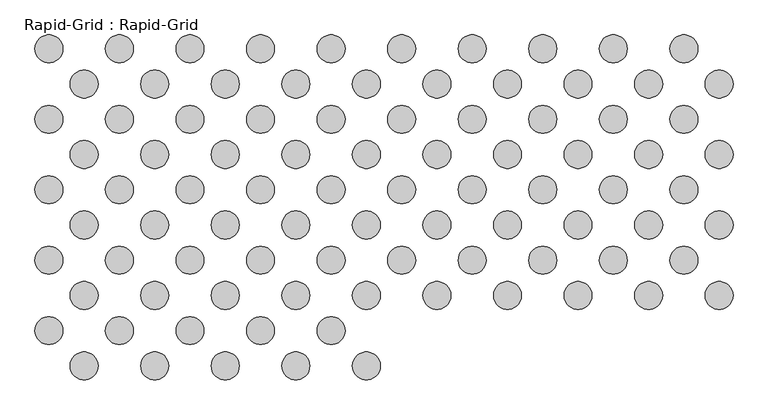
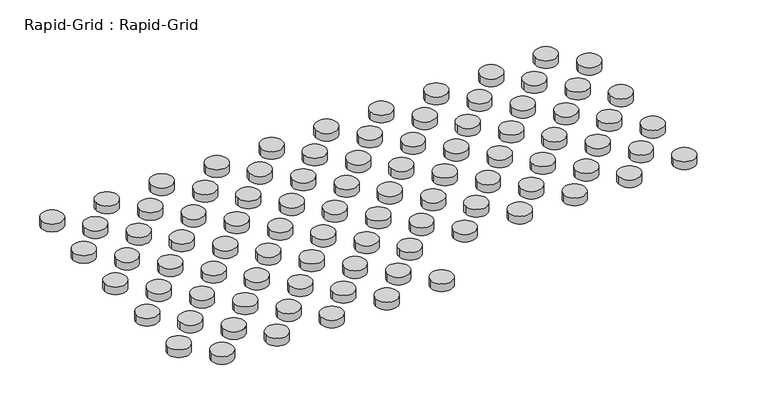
"""IFC4 building model written with IfcOpenShell, lengths in millimetres: proxy geometry, Rapid-Grid : Rapid-Grid."""

from ifc_helpers import new_model, si_unit, point, frame_2d, origin, origin_with_axes, place, context, project, spatial, circle_curve, trimmed, segment, composite_curve, outline, extrude, source, transform, mapped, element, save


def rapid_grid_rapid_grid_16447b40(model_context):
    return source(origin(), model_context, "Body", "SweptSolid", [
        extrude(outline(composite_curve([segment(trimmed(circle_curve(frame_2d((723.9, -1943.1)), 30.1625), [point((693.7375, -1943.1))], [point((754.0625, -1943.1))], False, "CARTESIAN"), True, "CONTINUOUS"), segment(trimmed(circle_curve(frame_2d((723.9, -1943.1)), 30.1625), [point((754.0625, -1943.1))], [point((693.7375, -1943.1))], False, "CARTESIAN"), True, "CONTINUOUS")], self_intersect=False)), origin_with_axes(), (0.0, 0.0, 1.0), 22.225),
        extrude(outline(composite_curve([segment(trimmed(circle_curve(frame_2d((647.7, -1866.9)), 30.1625), [point((617.5375, -1866.9))], [point((677.8625, -1866.9))], False, "CARTESIAN"), True, "CONTINUOUS"), segment(trimmed(circle_curve(frame_2d((647.7, -1866.9)), 30.1625), [point((677.8625, -1866.9))], [point((617.5375, -1866.9))], False, "CARTESIAN"), True, "CONTINUOUS")], self_intersect=False)), origin_with_axes(), (0.0, 0.0, 1.0), 22.225),
        extrude(outline(composite_curve([segment(trimmed(circle_curve(frame_2d((571.5, -1943.1)), 30.1625), [point((541.3375, -1943.1))], [point((601.6625, -1943.1))], False, "CARTESIAN"), True, "CONTINUOUS"), segment(trimmed(circle_curve(frame_2d((571.5, -1943.1)), 30.1625), [point((601.6625, -1943.1))], [point((541.3375, -1943.1))], False, "CARTESIAN"), True, "CONTINUOUS")], self_intersect=False)), origin_with_axes(), (0.0, 0.0, 1.0), 22.225),
        extrude(outline(composite_curve([segment(trimmed(circle_curve(frame_2d((495.3, -1866.9)), 30.1625), [point((465.1375, -1866.9))], [point((525.4625, -1866.9))], False, "CARTESIAN"), True, "CONTINUOUS"), segment(trimmed(circle_curve(frame_2d((495.3, -1866.9)), 30.1625), [point((525.4625, -1866.9))], [point((465.1375, -1866.9))], False, "CARTESIAN"), True, "CONTINUOUS")], self_intersect=False)), origin_with_axes(), (0.0, 0.0, 1.0), 22.225),
        extrude(outline(composite_curve([segment(trimmed(circle_curve(frame_2d((419.1, -1943.1)), 30.1625), [point((388.9375, -1943.1))], [point((449.2625, -1943.1))], False, "CARTESIAN"), True, "CONTINUOUS"), segment(trimmed(circle_curve(frame_2d((419.1, -1943.1)), 30.1625), [point((449.2625, -1943.1))], [point((388.9375, -1943.1))], False, "CARTESIAN"), True, "CONTINUOUS")], self_intersect=False)), origin_with_axes(), (0.0, 0.0, 1.0), 22.225),
        extrude(outline(composite_curve([segment(trimmed(circle_curve(frame_2d((342.9, -1866.9)), 30.1625), [point((312.7375, -1866.9))], [point((373.0625, -1866.9))], False, "CARTESIAN"), True, "CONTINUOUS"), segment(trimmed(circle_curve(frame_2d((342.9, -1866.9)), 30.1625), [point((373.0625, -1866.9))], [point((312.7375, -1866.9))], False, "CARTESIAN"), True, "CONTINUOUS")], self_intersect=False)), origin_with_axes(), (0.0, 0.0, 1.0), 22.225),
        extrude(outline(composite_curve([segment(trimmed(circle_curve(frame_2d((266.7, -1943.1)), 30.1625), [point((236.5375, -1943.1))], [point((296.8625, -1943.1))], False, "CARTESIAN"), True, "CONTINUOUS"), segment(trimmed(circle_curve(frame_2d((266.7, -1943.1)), 30.1625), [point((296.8625, -1943.1))], [point((236.5375, -1943.1))], False, "CARTESIAN"), True, "CONTINUOUS")], self_intersect=False)), origin_with_axes(), (0.0, 0.0, 1.0), 22.225),
        extrude(outline(composite_curve([segment(trimmed(circle_curve(frame_2d((190.5, -1866.9)), 30.1625), [point((160.3375, -1866.9))], [point((220.6625, -1866.9))], False, "CARTESIAN"), True, "CONTINUOUS"), segment(trimmed(circle_curve(frame_2d((190.5, -1866.9)), 30.1625), [point((220.6625, -1866.9))], [point((160.3375, -1866.9))], False, "CARTESIAN"), True, "CONTINUOUS")], self_intersect=False)), origin_with_axes(), (0.0, 0.0, 1.0), 22.225),
        extrude(outline(composite_curve([segment(trimmed(circle_curve(frame_2d((114.3, -1943.1)), 30.1625), [point((84.1375, -1943.1))], [point((144.4625, -1943.1))], False, "CARTESIAN"), True, "CONTINUOUS"), segment(trimmed(circle_curve(frame_2d((114.3, -1943.1)), 30.1625), [point((144.4625, -1943.1))], [point((84.1375, -1943.1))], False, "CARTESIAN"), True, "CONTINUOUS")], self_intersect=False)), origin_with_axes(), (0.0, 0.0, 1.0), 22.225),
        extrude(outline(composite_curve([segment(trimmed(circle_curve(frame_2d((38.1, -1866.9)), 30.1625), [point((7.9375, -1866.9))], [point((68.2625, -1866.9))], False, "CARTESIAN"), True, "CONTINUOUS"), segment(trimmed(circle_curve(frame_2d((38.1, -1866.9)), 30.1625), [point((68.2625, -1866.9))], [point((7.9375, -1866.9))], False, "CARTESIAN"), True, "CONTINUOUS")], self_intersect=False)), origin_with_axes(), (0.0, 0.0, 1.0), 22.225),
        extrude(outline(composite_curve([segment(trimmed(circle_curve(frame_2d((1485.9, -1790.7)), 30.1625), [point((1455.7375, -1790.7))], [point((1516.0625, -1790.7))], False, "CARTESIAN"), True, "CONTINUOUS"), segment(trimmed(circle_curve(frame_2d((1485.9, -1790.7)), 30.1625), [point((1516.0625, -1790.7))], [point((1455.7375, -1790.7))], False, "CARTESIAN"), True, "CONTINUOUS")], self_intersect=False)), origin_with_axes(), (0.0, 0.0, 1.0), 22.225),
        extrude(outline(composite_curve([segment(trimmed(circle_curve(frame_2d((1409.7, -1714.5)), 30.1625), [point((1379.5375, -1714.5))], [point((1439.8625, -1714.5))], False, "CARTESIAN"), True, "CONTINUOUS"), segment(trimmed(circle_curve(frame_2d((1409.7, -1714.5)), 30.1625), [point((1439.8625, -1714.5))], [point((1379.5375, -1714.5))], False, "CARTESIAN"), True, "CONTINUOUS")], self_intersect=False)), origin_with_axes(), (0.0, 0.0, 1.0), 22.225),
        extrude(outline(composite_curve([segment(trimmed(circle_curve(frame_2d((1333.5, -1790.7)), 30.1625), [point((1303.3375, -1790.7))], [point((1363.6625, -1790.7))], False, "CARTESIAN"), True, "CONTINUOUS"), segment(trimmed(circle_curve(frame_2d((1333.5, -1790.7)), 30.1625), [point((1363.6625, -1790.7))], [point((1303.3375, -1790.7))], False, "CARTESIAN"), True, "CONTINUOUS")], self_intersect=False)), origin_with_axes(), (0.0, 0.0, 1.0), 22.225),
        extrude(outline(composite_curve([segment(trimmed(circle_curve(frame_2d((1257.3, -1714.5)), 30.1625), [point((1227.1375, -1714.5))], [point((1287.4625, -1714.5))], False, "CARTESIAN"), True, "CONTINUOUS"), segment(trimmed(circle_curve(frame_2d((1257.3, -1714.5)), 30.1625), [point((1287.4625, -1714.5))], [point((1227.1375, -1714.5))], False, "CARTESIAN"), True, "CONTINUOUS")], self_intersect=False)), origin_with_axes(), (0.0, 0.0, 1.0), 22.225),
        extrude(outline(composite_curve([segment(trimmed(circle_curve(frame_2d((1181.1, -1790.7)), 30.1625), [point((1150.9375, -1790.7))], [point((1211.2625, -1790.7))], False, "CARTESIAN"), True, "CONTINUOUS"), segment(trimmed(circle_curve(frame_2d((1181.1, -1790.7)), 30.1625), [point((1211.2625, -1790.7))], [point((1150.9375, -1790.7))], False, "CARTESIAN"), True, "CONTINUOUS")], self_intersect=False)), origin_with_axes(), (0.0, 0.0, 1.0), 22.225),
        extrude(outline(composite_curve([segment(trimmed(circle_curve(frame_2d((1104.9, -1714.5)), 30.1625), [point((1074.7375, -1714.5))], [point((1135.0625, -1714.5))], False, "CARTESIAN"), True, "CONTINUOUS"), segment(trimmed(circle_curve(frame_2d((1104.9, -1714.5)), 30.1625), [point((1135.0625, -1714.5))], [point((1074.7375, -1714.5))], False, "CARTESIAN"), True, "CONTINUOUS")], self_intersect=False)), origin_with_axes(), (0.0, 0.0, 1.0), 22.225),
        extrude(outline(composite_curve([segment(trimmed(circle_curve(frame_2d((1028.7, -1790.7)), 30.1625), [point((998.5375, -1790.7))], [point((1058.8625, -1790.7))], False, "CARTESIAN"), True, "CONTINUOUS"), segment(trimmed(circle_curve(frame_2d((1028.7, -1790.7)), 30.1625), [point((1058.8625, -1790.7))], [point((998.5375, -1790.7))], False, "CARTESIAN"), True, "CONTINUOUS")], self_intersect=False)), origin_with_axes(), (0.0, 0.0, 1.0), 22.225),
        extrude(outline(composite_curve([segment(trimmed(circle_curve(frame_2d((952.5, -1714.5)), 30.1625), [point((922.3375, -1714.5))], [point((982.6625, -1714.5))], False, "CARTESIAN"), True, "CONTINUOUS"), segment(trimmed(circle_curve(frame_2d((952.5, -1714.5)), 30.1625), [point((982.6625, -1714.5))], [point((922.3375, -1714.5))], False, "CARTESIAN"), True, "CONTINUOUS")], self_intersect=False)), origin_with_axes(), (0.0, 0.0, 1.0), 22.225),
        extrude(outline(composite_curve([segment(trimmed(circle_curve(frame_2d((876.3, -1790.7)), 30.1625), [point((846.1375, -1790.7))], [point((906.4625, -1790.7))], False, "CARTESIAN"), True, "CONTINUOUS"), segment(trimmed(circle_curve(frame_2d((876.3, -1790.7)), 30.1625), [point((906.4625, -1790.7))], [point((846.1375, -1790.7))], False, "CARTESIAN"), True, "CONTINUOUS")], self_intersect=False)), origin_with_axes(), (0.0, 0.0, 1.0), 22.225),
        extrude(outline(composite_curve([segment(trimmed(circle_curve(frame_2d((800.1, -1714.5)), 30.1625), [point((769.9375, -1714.5))], [point((830.2625, -1714.5))], False, "CARTESIAN"), True, "CONTINUOUS"), segment(trimmed(circle_curve(frame_2d((800.1, -1714.5)), 30.1625), [point((830.2625, -1714.5))], [point((769.9375, -1714.5))], False, "CARTESIAN"), True, "CONTINUOUS")], self_intersect=False)), origin_with_axes(), (0.0, 0.0, 1.0), 22.225),
        extrude(outline(composite_curve([segment(trimmed(circle_curve(frame_2d((723.9, -1790.7)), 30.1625), [point((693.7375, -1790.7))], [point((754.0625, -1790.7))], False, "CARTESIAN"), True, "CONTINUOUS"), segment(trimmed(circle_curve(frame_2d((723.9, -1790.7)), 30.1625), [point((754.0625, -1790.7))], [point((693.7375, -1790.7))], False, "CARTESIAN"), True, "CONTINUOUS")], self_intersect=False)), origin_with_axes(), (0.0, 0.0, 1.0), 22.225),
        extrude(outline(composite_curve([segment(trimmed(circle_curve(frame_2d((647.7, -1714.5)), 30.1625), [point((617.5375, -1714.5))], [point((677.8625, -1714.5))], False, "CARTESIAN"), True, "CONTINUOUS"), segment(trimmed(circle_curve(frame_2d((647.7, -1714.5)), 30.1625), [point((677.8625, -1714.5))], [point((617.5375, -1714.5))], False, "CARTESIAN"), True, "CONTINUOUS")], self_intersect=False)), origin_with_axes(), (0.0, 0.0, 1.0), 22.225),
        extrude(outline(composite_curve([segment(trimmed(circle_curve(frame_2d((571.5, -1790.7)), 30.1625), [point((541.3375, -1790.7))], [point((601.6625, -1790.7))], False, "CARTESIAN"), True, "CONTINUOUS"), segment(trimmed(circle_curve(frame_2d((571.5, -1790.7)), 30.1625), [point((601.6625, -1790.7))], [point((541.3375, -1790.7))], False, "CARTESIAN"), True, "CONTINUOUS")], self_intersect=False)), origin_with_axes(), (0.0, 0.0, 1.0), 22.225),
        extrude(outline(composite_curve([segment(trimmed(circle_curve(frame_2d((495.3, -1714.5)), 30.1625), [point((465.1375, -1714.5))], [point((525.4625, -1714.5))], False, "CARTESIAN"), True, "CONTINUOUS"), segment(trimmed(circle_curve(frame_2d((495.3, -1714.5)), 30.1625), [point((525.4625, -1714.5))], [point((465.1375, -1714.5))], False, "CARTESIAN"), True, "CONTINUOUS")], self_intersect=False)), origin_with_axes(), (0.0, 0.0, 1.0), 22.225),
        extrude(outline(composite_curve([segment(trimmed(circle_curve(frame_2d((419.1, -1790.7)), 30.1625), [point((388.9375, -1790.7))], [point((449.2625, -1790.7))], False, "CARTESIAN"), True, "CONTINUOUS"), segment(trimmed(circle_curve(frame_2d((419.1, -1790.7)), 30.1625), [point((449.2625, -1790.7))], [point((388.9375, -1790.7))], False, "CARTESIAN"), True, "CONTINUOUS")], self_intersect=False)), origin_with_axes(), (0.0, 0.0, 1.0), 22.225),
        extrude(outline(composite_curve([segment(trimmed(circle_curve(frame_2d((342.9, -1714.5)), 30.1625), [point((312.7375, -1714.5))], [point((373.0625, -1714.5))], False, "CARTESIAN"), True, "CONTINUOUS"), segment(trimmed(circle_curve(frame_2d((342.9, -1714.5)), 30.1625), [point((373.0625, -1714.5))], [point((312.7375, -1714.5))], False, "CARTESIAN"), True, "CONTINUOUS")], self_intersect=False)), origin_with_axes(), (0.0, 0.0, 1.0), 22.225),
        extrude(outline(composite_curve([segment(trimmed(circle_curve(frame_2d((266.7, -1790.7)), 30.1625), [point((236.5375, -1790.7))], [point((296.8625, -1790.7))], False, "CARTESIAN"), True, "CONTINUOUS"), segment(trimmed(circle_curve(frame_2d((266.7, -1790.7)), 30.1625), [point((296.8625, -1790.7))], [point((236.5375, -1790.7))], False, "CARTESIAN"), True, "CONTINUOUS")], self_intersect=False)), origin_with_axes(), (0.0, 0.0, 1.0), 22.225),
        extrude(outline(composite_curve([segment(trimmed(circle_curve(frame_2d((190.5, -1714.5)), 30.1625), [point((160.3375, -1714.5))], [point((220.6625, -1714.5))], False, "CARTESIAN"), True, "CONTINUOUS"), segment(trimmed(circle_curve(frame_2d((190.5, -1714.5)), 30.1625), [point((220.6625, -1714.5))], [point((160.3375, -1714.5))], False, "CARTESIAN"), True, "CONTINUOUS")], self_intersect=False)), origin_with_axes(), (0.0, 0.0, 1.0), 22.225),
        extrude(outline(composite_curve([segment(trimmed(circle_curve(frame_2d((114.3, -1790.7)), 30.1625), [point((84.1375, -1790.7))], [point((144.4625, -1790.7))], False, "CARTESIAN"), True, "CONTINUOUS"), segment(trimmed(circle_curve(frame_2d((114.3, -1790.7)), 30.1625), [point((144.4625, -1790.7))], [point((84.1375, -1790.7))], False, "CARTESIAN"), True, "CONTINUOUS")], self_intersect=False)), origin_with_axes(), (0.0, 0.0, 1.0), 22.225),
        extrude(outline(composite_curve([segment(trimmed(circle_curve(frame_2d((38.1, -1714.5)), 30.1625), [point((7.9375, -1714.5))], [point((68.2625, -1714.5))], False, "CARTESIAN"), True, "CONTINUOUS"), segment(trimmed(circle_curve(frame_2d((38.1, -1714.5)), 30.1625), [point((68.2625, -1714.5))], [point((7.9375, -1714.5))], False, "CARTESIAN"), True, "CONTINUOUS")], self_intersect=False)), origin_with_axes(), (0.0, 0.0, 1.0), 22.225),
        extrude(outline(composite_curve([segment(trimmed(circle_curve(frame_2d((1485.9, -1638.3)), 30.1625), [point((1455.7375, -1638.3))], [point((1516.0625, -1638.3))], False, "CARTESIAN"), True, "CONTINUOUS"), segment(trimmed(circle_curve(frame_2d((1485.9, -1638.3)), 30.1625), [point((1516.0625, -1638.3))], [point((1455.7375, -1638.3))], False, "CARTESIAN"), True, "CONTINUOUS")], self_intersect=False)), origin_with_axes(), (0.0, 0.0, 1.0), 22.225),
        extrude(outline(composite_curve([segment(trimmed(circle_curve(frame_2d((1409.7, -1562.1)), 30.1625), [point((1379.5375, -1562.1))], [point((1439.8625, -1562.1))], False, "CARTESIAN"), True, "CONTINUOUS"), segment(trimmed(circle_curve(frame_2d((1409.7, -1562.1)), 30.1625), [point((1439.8625, -1562.1))], [point((1379.5375, -1562.1))], False, "CARTESIAN"), True, "CONTINUOUS")], self_intersect=False)), origin_with_axes(), (0.0, 0.0, 1.0), 22.225),
        extrude(outline(composite_curve([segment(trimmed(circle_curve(frame_2d((1333.5, -1638.3)), 30.1625), [point((1303.3375, -1638.3))], [point((1363.6625, -1638.3))], False, "CARTESIAN"), True, "CONTINUOUS"), segment(trimmed(circle_curve(frame_2d((1333.5, -1638.3)), 30.1625), [point((1363.6625, -1638.3))], [point((1303.3375, -1638.3))], False, "CARTESIAN"), True, "CONTINUOUS")], self_intersect=False)), origin_with_axes(), (0.0, 0.0, 1.0), 22.225),
        extrude(outline(composite_curve([segment(trimmed(circle_curve(frame_2d((1257.3, -1562.1)), 30.1625), [point((1227.1375, -1562.1))], [point((1287.4625, -1562.1))], False, "CARTESIAN"), True, "CONTINUOUS"), segment(trimmed(circle_curve(frame_2d((1257.3, -1562.1)), 30.1625), [point((1287.4625, -1562.1))], [point((1227.1375, -1562.1))], False, "CARTESIAN"), True, "CONTINUOUS")], self_intersect=False)), origin_with_axes(), (0.0, 0.0, 1.0), 22.225),
        extrude(outline(composite_curve([segment(trimmed(circle_curve(frame_2d((1181.1, -1638.3)), 30.1625), [point((1150.9375, -1638.3))], [point((1211.2625, -1638.3))], False, "CARTESIAN"), True, "CONTINUOUS"), segment(trimmed(circle_curve(frame_2d((1181.1, -1638.3)), 30.1625), [point((1211.2625, -1638.3))], [point((1150.9375, -1638.3))], False, "CARTESIAN"), True, "CONTINUOUS")], self_intersect=False)), origin_with_axes(), (0.0, 0.0, 1.0), 22.225),
        extrude(outline(composite_curve([segment(trimmed(circle_curve(frame_2d((1104.9, -1562.1)), 30.1625), [point((1074.7375, -1562.1))], [point((1135.0625, -1562.1))], False, "CARTESIAN"), True, "CONTINUOUS"), segment(trimmed(circle_curve(frame_2d((1104.9, -1562.1)), 30.1625), [point((1135.0625, -1562.1))], [point((1074.7375, -1562.1))], False, "CARTESIAN"), True, "CONTINUOUS")], self_intersect=False)), origin_with_axes(), (0.0, 0.0, 1.0), 22.225),
        extrude(outline(composite_curve([segment(trimmed(circle_curve(frame_2d((1028.7, -1638.3)), 30.1625), [point((998.5375, -1638.3))], [point((1058.8625, -1638.3))], False, "CARTESIAN"), True, "CONTINUOUS"), segment(trimmed(circle_curve(frame_2d((1028.7, -1638.3)), 30.1625), [point((1058.8625, -1638.3))], [point((998.5375, -1638.3))], False, "CARTESIAN"), True, "CONTINUOUS")], self_intersect=False)), origin_with_axes(), (0.0, 0.0, 1.0), 22.225),
        extrude(outline(composite_curve([segment(trimmed(circle_curve(frame_2d((952.5, -1562.1)), 30.1625), [point((922.3375, -1562.1))], [point((982.6625, -1562.1))], False, "CARTESIAN"), True, "CONTINUOUS"), segment(trimmed(circle_curve(frame_2d((952.5, -1562.1)), 30.1625), [point((982.6625, -1562.1))], [point((922.3375, -1562.1))], False, "CARTESIAN"), True, "CONTINUOUS")], self_intersect=False)), origin_with_axes(), (0.0, 0.0, 1.0), 22.225),
        extrude(outline(composite_curve([segment(trimmed(circle_curve(frame_2d((876.3, -1638.3)), 30.1625), [point((846.1375, -1638.3))], [point((906.4625, -1638.3))], False, "CARTESIAN"), True, "CONTINUOUS"), segment(trimmed(circle_curve(frame_2d((876.3, -1638.3)), 30.1625), [point((906.4625, -1638.3))], [point((846.1375, -1638.3))], False, "CARTESIAN"), True, "CONTINUOUS")], self_intersect=False)), origin_with_axes(), (0.0, 0.0, 1.0), 22.225),
        extrude(outline(composite_curve([segment(trimmed(circle_curve(frame_2d((800.1, -1562.1)), 30.1625), [point((769.9375, -1562.1))], [point((830.2625, -1562.1))], False, "CARTESIAN"), True, "CONTINUOUS"), segment(trimmed(circle_curve(frame_2d((800.1, -1562.1)), 30.1625), [point((830.2625, -1562.1))], [point((769.9375, -1562.1))], False, "CARTESIAN"), True, "CONTINUOUS")], self_intersect=False)), origin_with_axes(), (0.0, 0.0, 1.0), 22.225),
        extrude(outline(composite_curve([segment(trimmed(circle_curve(frame_2d((723.9, -1638.3)), 30.1625), [point((693.7375, -1638.3))], [point((754.0625, -1638.3))], False, "CARTESIAN"), True, "CONTINUOUS"), segment(trimmed(circle_curve(frame_2d((723.9, -1638.3)), 30.1625), [point((754.0625, -1638.3))], [point((693.7375, -1638.3))], False, "CARTESIAN"), True, "CONTINUOUS")], self_intersect=False)), origin_with_axes(), (0.0, 0.0, 1.0), 22.225),
        extrude(outline(composite_curve([segment(trimmed(circle_curve(frame_2d((647.7, -1562.1)), 30.1625), [point((617.5375, -1562.1))], [point((677.8625, -1562.1))], False, "CARTESIAN"), True, "CONTINUOUS"), segment(trimmed(circle_curve(frame_2d((647.7, -1562.1)), 30.1625), [point((677.8625, -1562.1))], [point((617.5375, -1562.1))], False, "CARTESIAN"), True, "CONTINUOUS")], self_intersect=False)), origin_with_axes(), (0.0, 0.0, 1.0), 22.225),
        extrude(outline(composite_curve([segment(trimmed(circle_curve(frame_2d((571.5, -1638.3)), 30.1625), [point((541.3375, -1638.3))], [point((601.6625, -1638.3))], False, "CARTESIAN"), True, "CONTINUOUS"), segment(trimmed(circle_curve(frame_2d((571.5, -1638.3)), 30.1625), [point((601.6625, -1638.3))], [point((541.3375, -1638.3))], False, "CARTESIAN"), True, "CONTINUOUS")], self_intersect=False)), origin_with_axes(), (0.0, 0.0, 1.0), 22.225),
        extrude(outline(composite_curve([segment(trimmed(circle_curve(frame_2d((495.3, -1562.1)), 30.1625), [point((465.1375, -1562.1))], [point((525.4625, -1562.1))], False, "CARTESIAN"), True, "CONTINUOUS"), segment(trimmed(circle_curve(frame_2d((495.3, -1562.1)), 30.1625), [point((525.4625, -1562.1))], [point((465.1375, -1562.1))], False, "CARTESIAN"), True, "CONTINUOUS")], self_intersect=False)), origin_with_axes(), (0.0, 0.0, 1.0), 22.225),
        extrude(outline(composite_curve([segment(trimmed(circle_curve(frame_2d((419.1, -1638.3)), 30.1625), [point((388.9375, -1638.3))], [point((449.2625, -1638.3))], False, "CARTESIAN"), True, "CONTINUOUS"), segment(trimmed(circle_curve(frame_2d((419.1, -1638.3)), 30.1625), [point((449.2625, -1638.3))], [point((388.9375, -1638.3))], False, "CARTESIAN"), True, "CONTINUOUS")], self_intersect=False)), origin_with_axes(), (0.0, 0.0, 1.0), 22.225),
        extrude(outline(composite_curve([segment(trimmed(circle_curve(frame_2d((342.9, -1562.1)), 30.1625), [point((312.7375, -1562.1))], [point((373.0625, -1562.1))], False, "CARTESIAN"), True, "CONTINUOUS"), segment(trimmed(circle_curve(frame_2d((342.9, -1562.1)), 30.1625), [point((373.0625, -1562.1))], [point((312.7375, -1562.1))], False, "CARTESIAN"), True, "CONTINUOUS")], self_intersect=False)), origin_with_axes(), (0.0, 0.0, 1.0), 22.225),
        extrude(outline(composite_curve([segment(trimmed(circle_curve(frame_2d((266.7, -1638.3)), 30.1625), [point((236.5375, -1638.3))], [point((296.8625, -1638.3))], False, "CARTESIAN"), True, "CONTINUOUS"), segment(trimmed(circle_curve(frame_2d((266.7, -1638.3)), 30.1625), [point((296.8625, -1638.3))], [point((236.5375, -1638.3))], False, "CARTESIAN"), True, "CONTINUOUS")], self_intersect=False)), origin_with_axes(), (0.0, 0.0, 1.0), 22.225),
        extrude(outline(composite_curve([segment(trimmed(circle_curve(frame_2d((190.5, -1562.1)), 30.1625), [point((160.3375, -1562.1))], [point((220.6625, -1562.1))], False, "CARTESIAN"), True, "CONTINUOUS"), segment(trimmed(circle_curve(frame_2d((190.5, -1562.1)), 30.1625), [point((220.6625, -1562.1))], [point((160.3375, -1562.1))], False, "CARTESIAN"), True, "CONTINUOUS")], self_intersect=False)), origin_with_axes(), (0.0, 0.0, 1.0), 22.225),
        extrude(outline(composite_curve([segment(trimmed(circle_curve(frame_2d((114.3, -1638.3)), 30.1625), [point((84.1375, -1638.3))], [point((144.4625, -1638.3))], False, "CARTESIAN"), True, "CONTINUOUS"), segment(trimmed(circle_curve(frame_2d((114.3, -1638.3)), 30.1625), [point((144.4625, -1638.3))], [point((84.1375, -1638.3))], False, "CARTESIAN"), True, "CONTINUOUS")], self_intersect=False)), origin_with_axes(), (0.0, 0.0, 1.0), 22.225),
        extrude(outline(composite_curve([segment(trimmed(circle_curve(frame_2d((38.1, -1562.1)), 30.1625), [point((7.9375, -1562.1))], [point((68.2625, -1562.1))], False, "CARTESIAN"), True, "CONTINUOUS"), segment(trimmed(circle_curve(frame_2d((38.1, -1562.1)), 30.1625), [point((68.2625, -1562.1))], [point((7.9375, -1562.1))], False, "CARTESIAN"), True, "CONTINUOUS")], self_intersect=False)), origin_with_axes(), (0.0, 0.0, 1.0), 22.225),
        extrude(outline(composite_curve([segment(trimmed(circle_curve(frame_2d((1485.9, -1485.9)), 30.1625), [point((1455.7375, -1485.9))], [point((1516.0625, -1485.9))], False, "CARTESIAN"), True, "CONTINUOUS"), segment(trimmed(circle_curve(frame_2d((1485.9, -1485.9)), 30.1625), [point((1516.0625, -1485.9))], [point((1455.7375, -1485.9))], False, "CARTESIAN"), True, "CONTINUOUS")], self_intersect=False)), origin_with_axes(), (0.0, 0.0, 1.0), 22.225),
        extrude(outline(composite_curve([segment(trimmed(circle_curve(frame_2d((1409.7, -1409.7)), 30.1625), [point((1379.5375, -1409.7))], [point((1439.8625, -1409.7))], False, "CARTESIAN"), True, "CONTINUOUS"), segment(trimmed(circle_curve(frame_2d((1409.7, -1409.7)), 30.1625), [point((1439.8625, -1409.7))], [point((1379.5375, -1409.7))], False, "CARTESIAN"), True, "CONTINUOUS")], self_intersect=False)), origin_with_axes(), (0.0, 0.0, 1.0), 22.225),
        extrude(outline(composite_curve([segment(trimmed(circle_curve(frame_2d((1333.5, -1485.9)), 30.1625), [point((1303.3375, -1485.9))], [point((1363.6625, -1485.9))], False, "CARTESIAN"), True, "CONTINUOUS"), segment(trimmed(circle_curve(frame_2d((1333.5, -1485.9)), 30.1625), [point((1363.6625, -1485.9))], [point((1303.3375, -1485.9))], False, "CARTESIAN"), True, "CONTINUOUS")], self_intersect=False)), origin_with_axes(), (0.0, 0.0, 1.0), 22.225),
        extrude(outline(composite_curve([segment(trimmed(circle_curve(frame_2d((1257.3, -1409.7)), 30.1625), [point((1227.1375, -1409.7))], [point((1287.4625, -1409.7))], False, "CARTESIAN"), True, "CONTINUOUS"), segment(trimmed(circle_curve(frame_2d((1257.3, -1409.7)), 30.1625), [point((1287.4625, -1409.7))], [point((1227.1375, -1409.7))], False, "CARTESIAN"), True, "CONTINUOUS")], self_intersect=False)), origin_with_axes(), (0.0, 0.0, 1.0), 22.225),
        extrude(outline(composite_curve([segment(trimmed(circle_curve(frame_2d((1181.1, -1485.9)), 30.1625), [point((1150.9375, -1485.9))], [point((1211.2625, -1485.9))], False, "CARTESIAN"), True, "CONTINUOUS"), segment(trimmed(circle_curve(frame_2d((1181.1, -1485.9)), 30.1625), [point((1211.2625, -1485.9))], [point((1150.9375, -1485.9))], False, "CARTESIAN"), True, "CONTINUOUS")], self_intersect=False)), origin_with_axes(), (0.0, 0.0, 1.0), 22.225),
        extrude(outline(composite_curve([segment(trimmed(circle_curve(frame_2d((1104.9, -1409.7)), 30.1625), [point((1074.7375, -1409.7))], [point((1135.0625, -1409.7))], False, "CARTESIAN"), True, "CONTINUOUS"), segment(trimmed(circle_curve(frame_2d((1104.9, -1409.7)), 30.1625), [point((1135.0625, -1409.7))], [point((1074.7375, -1409.7))], False, "CARTESIAN"), True, "CONTINUOUS")], self_intersect=False)), origin_with_axes(), (0.0, 0.0, 1.0), 22.225),
        extrude(outline(composite_curve([segment(trimmed(circle_curve(frame_2d((1028.7, -1485.9)), 30.1625), [point((998.5375, -1485.9))], [point((1058.8625, -1485.9))], False, "CARTESIAN"), True, "CONTINUOUS"), segment(trimmed(circle_curve(frame_2d((1028.7, -1485.9)), 30.1625), [point((1058.8625, -1485.9))], [point((998.5375, -1485.9))], False, "CARTESIAN"), True, "CONTINUOUS")], self_intersect=False)), origin_with_axes(), (0.0, 0.0, 1.0), 22.225),
        extrude(outline(composite_curve([segment(trimmed(circle_curve(frame_2d((952.5, -1409.7)), 30.1625), [point((922.3375, -1409.7))], [point((982.6625, -1409.7))], False, "CARTESIAN"), True, "CONTINUOUS"), segment(trimmed(circle_curve(frame_2d((952.5, -1409.7)), 30.1625), [point((982.6625, -1409.7))], [point((922.3375, -1409.7))], False, "CARTESIAN"), True, "CONTINUOUS")], self_intersect=False)), origin_with_axes(), (0.0, 0.0, 1.0), 22.225),
        extrude(outline(composite_curve([segment(trimmed(circle_curve(frame_2d((876.3, -1485.9)), 30.1625), [point((846.1375, -1485.9))], [point((906.4625, -1485.9))], False, "CARTESIAN"), True, "CONTINUOUS"), segment(trimmed(circle_curve(frame_2d((876.3, -1485.9)), 30.1625), [point((906.4625, -1485.9))], [point((846.1375, -1485.9))], False, "CARTESIAN"), True, "CONTINUOUS")], self_intersect=False)), origin_with_axes(), (0.0, 0.0, 1.0), 22.225),
        extrude(outline(composite_curve([segment(trimmed(circle_curve(frame_2d((800.1, -1409.7)), 30.1625), [point((769.9375, -1409.7))], [point((830.2625, -1409.7))], False, "CARTESIAN"), True, "CONTINUOUS"), segment(trimmed(circle_curve(frame_2d((800.1, -1409.7)), 30.1625), [point((830.2625, -1409.7))], [point((769.9375, -1409.7))], False, "CARTESIAN"), True, "CONTINUOUS")], self_intersect=False)), origin_with_axes(), (0.0, 0.0, 1.0), 22.225),
        extrude(outline(composite_curve([segment(trimmed(circle_curve(frame_2d((723.9, -1485.9)), 30.1625), [point((693.7375, -1485.9))], [point((754.0625, -1485.9))], False, "CARTESIAN"), True, "CONTINUOUS"), segment(trimmed(circle_curve(frame_2d((723.9, -1485.9)), 30.1625), [point((754.0625, -1485.9))], [point((693.7375, -1485.9))], False, "CARTESIAN"), True, "CONTINUOUS")], self_intersect=False)), origin_with_axes(), (0.0, 0.0, 1.0), 22.225),
        extrude(outline(composite_curve([segment(trimmed(circle_curve(frame_2d((647.7, -1409.7)), 30.1625), [point((617.5375, -1409.7))], [point((677.8625, -1409.7))], False, "CARTESIAN"), True, "CONTINUOUS"), segment(trimmed(circle_curve(frame_2d((647.7, -1409.7)), 30.1625), [point((677.8625, -1409.7))], [point((617.5375, -1409.7))], False, "CARTESIAN"), True, "CONTINUOUS")], self_intersect=False)), origin_with_axes(), (0.0, 0.0, 1.0), 22.225),
        extrude(outline(composite_curve([segment(trimmed(circle_curve(frame_2d((571.5, -1485.9)), 30.1625), [point((541.3375, -1485.9))], [point((601.6625, -1485.9))], False, "CARTESIAN"), True, "CONTINUOUS"), segment(trimmed(circle_curve(frame_2d((571.5, -1485.9)), 30.1625), [point((601.6625, -1485.9))], [point((541.3375, -1485.9))], False, "CARTESIAN"), True, "CONTINUOUS")], self_intersect=False)), origin_with_axes(), (0.0, 0.0, 1.0), 22.225),
        extrude(outline(composite_curve([segment(trimmed(circle_curve(frame_2d((495.3, -1409.7)), 30.1625), [point((465.1375, -1409.7))], [point((525.4625, -1409.7))], False, "CARTESIAN"), True, "CONTINUOUS"), segment(trimmed(circle_curve(frame_2d((495.3, -1409.7)), 30.1625), [point((525.4625, -1409.7))], [point((465.1375, -1409.7))], False, "CARTESIAN"), True, "CONTINUOUS")], self_intersect=False)), origin_with_axes(), (0.0, 0.0, 1.0), 22.225),
        extrude(outline(composite_curve([segment(trimmed(circle_curve(frame_2d((419.1, -1485.9)), 30.1625), [point((388.9375, -1485.9))], [point((449.2625, -1485.9))], False, "CARTESIAN"), True, "CONTINUOUS"), segment(trimmed(circle_curve(frame_2d((419.1, -1485.9)), 30.1625), [point((449.2625, -1485.9))], [point((388.9375, -1485.9))], False, "CARTESIAN"), True, "CONTINUOUS")], self_intersect=False)), origin_with_axes(), (0.0, 0.0, 1.0), 22.225),
        extrude(outline(composite_curve([segment(trimmed(circle_curve(frame_2d((342.9, -1409.7)), 30.1625), [point((312.7375, -1409.7))], [point((373.0625, -1409.7))], False, "CARTESIAN"), True, "CONTINUOUS"), segment(trimmed(circle_curve(frame_2d((342.9, -1409.7)), 30.1625), [point((373.0625, -1409.7))], [point((312.7375, -1409.7))], False, "CARTESIAN"), True, "CONTINUOUS")], self_intersect=False)), origin_with_axes(), (0.0, 0.0, 1.0), 22.225),
        extrude(outline(composite_curve([segment(trimmed(circle_curve(frame_2d((266.7, -1485.9)), 30.1625), [point((236.5375, -1485.9))], [point((296.8625, -1485.9))], False, "CARTESIAN"), True, "CONTINUOUS"), segment(trimmed(circle_curve(frame_2d((266.7, -1485.9)), 30.1625), [point((296.8625, -1485.9))], [point((236.5375, -1485.9))], False, "CARTESIAN"), True, "CONTINUOUS")], self_intersect=False)), origin_with_axes(), (0.0, 0.0, 1.0), 22.225),
        extrude(outline(composite_curve([segment(trimmed(circle_curve(frame_2d((190.5, -1409.7)), 30.1625), [point((160.3375, -1409.7))], [point((220.6625, -1409.7))], False, "CARTESIAN"), True, "CONTINUOUS"), segment(trimmed(circle_curve(frame_2d((190.5, -1409.7)), 30.1625), [point((220.6625, -1409.7))], [point((160.3375, -1409.7))], False, "CARTESIAN"), True, "CONTINUOUS")], self_intersect=False)), origin_with_axes(), (0.0, 0.0, 1.0), 22.225),
        extrude(outline(composite_curve([segment(trimmed(circle_curve(frame_2d((114.3, -1485.9)), 30.1625), [point((84.1375, -1485.9))], [point((144.4625, -1485.9))], False, "CARTESIAN"), True, "CONTINUOUS"), segment(trimmed(circle_curve(frame_2d((114.3, -1485.9)), 30.1625), [point((144.4625, -1485.9))], [point((84.1375, -1485.9))], False, "CARTESIAN"), True, "CONTINUOUS")], self_intersect=False)), origin_with_axes(), (0.0, 0.0, 1.0), 22.225),
        extrude(outline(composite_curve([segment(trimmed(circle_curve(frame_2d((38.1, -1409.7)), 30.1625), [point((7.9375, -1409.7))], [point((68.2625, -1409.7))], False, "CARTESIAN"), True, "CONTINUOUS"), segment(trimmed(circle_curve(frame_2d((38.1, -1409.7)), 30.1625), [point((68.2625, -1409.7))], [point((7.9375, -1409.7))], False, "CARTESIAN"), True, "CONTINUOUS")], self_intersect=False)), origin_with_axes(), (0.0, 0.0, 1.0), 22.225),
        extrude(outline(composite_curve([segment(trimmed(circle_curve(frame_2d((1485.9, -1333.5)), 30.1625), [point((1455.7375, -1333.5))], [point((1516.0625, -1333.5))], False, "CARTESIAN"), True, "CONTINUOUS"), segment(trimmed(circle_curve(frame_2d((1485.9, -1333.5)), 30.1625), [point((1516.0625, -1333.5))], [point((1455.7375, -1333.5))], False, "CARTESIAN"), True, "CONTINUOUS")], self_intersect=False)), origin_with_axes(), (0.0, 0.0, 1.0), 22.225),
        extrude(outline(composite_curve([segment(trimmed(circle_curve(frame_2d((1409.7, -1257.3)), 30.1625), [point((1379.5375, -1257.3))], [point((1439.8625, -1257.3))], False, "CARTESIAN"), True, "CONTINUOUS"), segment(trimmed(circle_curve(frame_2d((1409.7, -1257.3)), 30.1625), [point((1439.8625, -1257.3))], [point((1379.5375, -1257.3))], False, "CARTESIAN"), True, "CONTINUOUS")], self_intersect=False)), origin_with_axes(), (0.0, 0.0, 1.0), 22.225),
        extrude(outline(composite_curve([segment(trimmed(circle_curve(frame_2d((1333.5, -1333.5)), 30.1625), [point((1303.3375, -1333.5))], [point((1363.6625, -1333.5))], False, "CARTESIAN"), True, "CONTINUOUS"), segment(trimmed(circle_curve(frame_2d((1333.5, -1333.5)), 30.1625), [point((1363.6625, -1333.5))], [point((1303.3375, -1333.5))], False, "CARTESIAN"), True, "CONTINUOUS")], self_intersect=False)), origin_with_axes(), (0.0, 0.0, 1.0), 22.225),
        extrude(outline(composite_curve([segment(trimmed(circle_curve(frame_2d((1257.3, -1257.3)), 30.1625), [point((1227.1375, -1257.3))], [point((1287.4625, -1257.3))], False, "CARTESIAN"), True, "CONTINUOUS"), segment(trimmed(circle_curve(frame_2d((1257.3, -1257.3)), 30.1625), [point((1287.4625, -1257.3))], [point((1227.1375, -1257.3))], False, "CARTESIAN"), True, "CONTINUOUS")], self_intersect=False)), origin_with_axes(), (0.0, 0.0, 1.0), 22.225),
        extrude(outline(composite_curve([segment(trimmed(circle_curve(frame_2d((1181.1, -1333.5)), 30.1625), [point((1150.9375, -1333.5))], [point((1211.2625, -1333.5))], False, "CARTESIAN"), True, "CONTINUOUS"), segment(trimmed(circle_curve(frame_2d((1181.1, -1333.5)), 30.1625), [point((1211.2625, -1333.5))], [point((1150.9375, -1333.5))], False, "CARTESIAN"), True, "CONTINUOUS")], self_intersect=False)), origin_with_axes(), (0.0, 0.0, 1.0), 22.225),
        extrude(outline(composite_curve([segment(trimmed(circle_curve(frame_2d((1104.9, -1257.3)), 30.1625), [point((1074.7375, -1257.3))], [point((1135.0625, -1257.3))], False, "CARTESIAN"), True, "CONTINUOUS"), segment(trimmed(circle_curve(frame_2d((1104.9, -1257.3)), 30.1625), [point((1135.0625, -1257.3))], [point((1074.7375, -1257.3))], False, "CARTESIAN"), True, "CONTINUOUS")], self_intersect=False)), origin_with_axes(), (0.0, 0.0, 1.0), 22.225),
        extrude(outline(composite_curve([segment(trimmed(circle_curve(frame_2d((1028.7, -1333.5)), 30.1625), [point((998.5375, -1333.5))], [point((1058.8625, -1333.5))], False, "CARTESIAN"), True, "CONTINUOUS"), segment(trimmed(circle_curve(frame_2d((1028.7, -1333.5)), 30.1625), [point((1058.8625, -1333.5))], [point((998.5375, -1333.5))], False, "CARTESIAN"), True, "CONTINUOUS")], self_intersect=False)), origin_with_axes(), (0.0, 0.0, 1.0), 22.225),
        extrude(outline(composite_curve([segment(trimmed(circle_curve(frame_2d((952.5, -1257.3)), 30.1625), [point((922.3375, -1257.3))], [point((982.6625, -1257.3))], False, "CARTESIAN"), True, "CONTINUOUS"), segment(trimmed(circle_curve(frame_2d((952.5, -1257.3)), 30.1625), [point((982.6625, -1257.3))], [point((922.3375, -1257.3))], False, "CARTESIAN"), True, "CONTINUOUS")], self_intersect=False)), origin_with_axes(), (0.0, 0.0, 1.0), 22.225),
        extrude(outline(composite_curve([segment(trimmed(circle_curve(frame_2d((876.3, -1333.5)), 30.1625), [point((846.1375, -1333.5))], [point((906.4625, -1333.5))], False, "CARTESIAN"), True, "CONTINUOUS"), segment(trimmed(circle_curve(frame_2d((876.3, -1333.5)), 30.1625), [point((906.4625, -1333.5))], [point((846.1375, -1333.5))], False, "CARTESIAN"), True, "CONTINUOUS")], self_intersect=False)), origin_with_axes(), (0.0, 0.0, 1.0), 22.225),
        extrude(outline(composite_curve([segment(trimmed(circle_curve(frame_2d((800.1, -1257.3)), 30.1625), [point((769.9375, -1257.3))], [point((830.2625, -1257.3))], False, "CARTESIAN"), True, "CONTINUOUS"), segment(trimmed(circle_curve(frame_2d((800.1, -1257.3)), 30.1625), [point((830.2625, -1257.3))], [point((769.9375, -1257.3))], False, "CARTESIAN"), True, "CONTINUOUS")], self_intersect=False)), origin_with_axes(), (0.0, 0.0, 1.0), 22.225),
        extrude(outline(composite_curve([segment(trimmed(circle_curve(frame_2d((723.9, -1333.5)), 30.1625), [point((693.7375, -1333.5))], [point((754.0625, -1333.5))], False, "CARTESIAN"), True, "CONTINUOUS"), segment(trimmed(circle_curve(frame_2d((723.9, -1333.5)), 30.1625), [point((754.0625, -1333.5))], [point((693.7375, -1333.5))], False, "CARTESIAN"), True, "CONTINUOUS")], self_intersect=False)), origin_with_axes(), (0.0, 0.0, 1.0), 22.225),
        extrude(outline(composite_curve([segment(trimmed(circle_curve(frame_2d((647.7, -1257.3)), 30.1625), [point((617.5375, -1257.3))], [point((677.8625, -1257.3))], False, "CARTESIAN"), True, "CONTINUOUS"), segment(trimmed(circle_curve(frame_2d((647.7, -1257.3)), 30.1625), [point((677.8625, -1257.3))], [point((617.5375, -1257.3))], False, "CARTESIAN"), True, "CONTINUOUS")], self_intersect=False)), origin_with_axes(), (0.0, 0.0, 1.0), 22.225),
        extrude(outline(composite_curve([segment(trimmed(circle_curve(frame_2d((571.5, -1333.5)), 30.1625), [point((541.3375, -1333.5))], [point((601.6625, -1333.5))], False, "CARTESIAN"), True, "CONTINUOUS"), segment(trimmed(circle_curve(frame_2d((571.5, -1333.5)), 30.1625), [point((601.6625, -1333.5))], [point((541.3375, -1333.5))], False, "CARTESIAN"), True, "CONTINUOUS")], self_intersect=False)), origin_with_axes(), (0.0, 0.0, 1.0), 22.225),
        extrude(outline(composite_curve([segment(trimmed(circle_curve(frame_2d((495.3, -1257.3)), 30.1625), [point((465.1375, -1257.3))], [point((525.4625, -1257.3))], False, "CARTESIAN"), True, "CONTINUOUS"), segment(trimmed(circle_curve(frame_2d((495.3, -1257.3)), 30.1625), [point((525.4625, -1257.3))], [point((465.1375, -1257.3))], False, "CARTESIAN"), True, "CONTINUOUS")], self_intersect=False)), origin_with_axes(), (0.0, 0.0, 1.0), 22.225),
        extrude(outline(composite_curve([segment(trimmed(circle_curve(frame_2d((419.1, -1333.5)), 30.1625), [point((388.9375, -1333.5))], [point((449.2625, -1333.5))], False, "CARTESIAN"), True, "CONTINUOUS"), segment(trimmed(circle_curve(frame_2d((419.1, -1333.5)), 30.1625), [point((449.2625, -1333.5))], [point((388.9375, -1333.5))], False, "CARTESIAN"), True, "CONTINUOUS")], self_intersect=False)), origin_with_axes(), (0.0, 0.0, 1.0), 22.225),
        extrude(outline(composite_curve([segment(trimmed(circle_curve(frame_2d((342.9, -1257.3)), 30.1625), [point((312.7375, -1257.3))], [point((373.0625, -1257.3))], False, "CARTESIAN"), True, "CONTINUOUS"), segment(trimmed(circle_curve(frame_2d((342.9, -1257.3)), 30.1625), [point((373.0625, -1257.3))], [point((312.7375, -1257.3))], False, "CARTESIAN"), True, "CONTINUOUS")], self_intersect=False)), origin_with_axes(), (0.0, 0.0, 1.0), 22.225),
        extrude(outline(composite_curve([segment(trimmed(circle_curve(frame_2d((266.7, -1333.5)), 30.1625), [point((236.5375, -1333.5))], [point((296.8625, -1333.5))], False, "CARTESIAN"), True, "CONTINUOUS"), segment(trimmed(circle_curve(frame_2d((266.7, -1333.5)), 30.1625), [point((296.8625, -1333.5))], [point((236.5375, -1333.5))], False, "CARTESIAN"), True, "CONTINUOUS")], self_intersect=False)), origin_with_axes(), (0.0, 0.0, 1.0), 22.225),
        extrude(outline(composite_curve([segment(trimmed(circle_curve(frame_2d((190.5, -1257.3)), 30.1625), [point((160.3375, -1257.3))], [point((220.6625, -1257.3))], False, "CARTESIAN"), True, "CONTINUOUS"), segment(trimmed(circle_curve(frame_2d((190.5, -1257.3)), 30.1625), [point((220.6625, -1257.3))], [point((160.3375, -1257.3))], False, "CARTESIAN"), True, "CONTINUOUS")], self_intersect=False)), origin_with_axes(), (0.0, 0.0, 1.0), 22.225),
        extrude(outline(composite_curve([segment(trimmed(circle_curve(frame_2d((114.3, -1333.5)), 30.1625), [point((84.1375, -1333.5))], [point((144.4625, -1333.5))], False, "CARTESIAN"), True, "CONTINUOUS"), segment(trimmed(circle_curve(frame_2d((114.3, -1333.5)), 30.1625), [point((144.4625, -1333.5))], [point((84.1375, -1333.5))], False, "CARTESIAN"), True, "CONTINUOUS")], self_intersect=False)), origin_with_axes(), (0.0, 0.0, 1.0), 22.225),
        extrude(outline(composite_curve([segment(trimmed(circle_curve(frame_2d((38.1, -1257.3)), 30.1625), [point((7.9375, -1257.3))], [point((68.2625, -1257.3))], False, "CARTESIAN"), True, "CONTINUOUS"), segment(trimmed(circle_curve(frame_2d((38.1, -1257.3)), 30.1625), [point((68.2625, -1257.3))], [point((7.9375, -1257.3))], False, "CARTESIAN"), True, "CONTINUOUS")], self_intersect=False)), origin_with_axes(), (0.0, 0.0, 1.0), 22.225),
    ])


if __name__ == "__main__":
    model = new_model("IFC4")
    model_context = context("Model", 3, world=origin())
    ifc_project = project(units=[si_unit("LENGTHUNIT", "METRE", prefix="MILLI")], contexts=[model_context])
    site = spatial("IfcSite", under=ifc_project)
    building = spatial("IfcBuilding", under=site)
    placement = place(None, origin())
    rapid_grid_rapid_grid_shape = rapid_grid_rapid_grid_16447b40(model_context)
    element("IfcBuildingElementProxy", 1, Name="Rapid-Grid : Rapid-Grid", ObjectType="Rapid-Grid : Rapid-Grid", at=placement, inside=building, context=model_context, shape_type="MappedRepresentation", body=[
        mapped(rapid_grid_rapid_grid_shape, transform((0.0, 0.0, 0.0), x_axis=(1.0, 0.0, 0.0), y_axis=(0.0, 1.0, 0.0), z_axis=(0.0, 0.0, 1.0))),
    ])
    save(model, "model.ifc")
